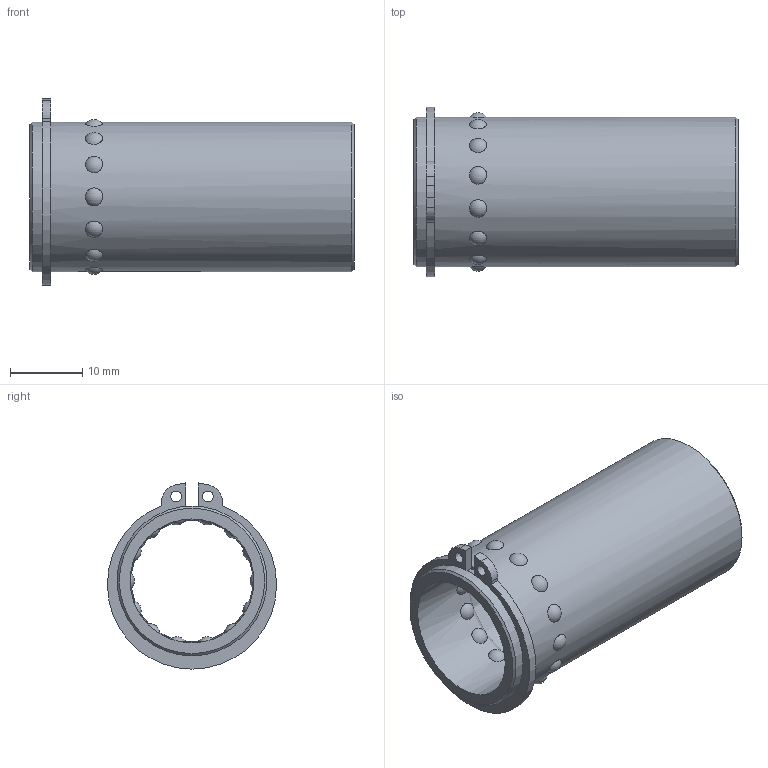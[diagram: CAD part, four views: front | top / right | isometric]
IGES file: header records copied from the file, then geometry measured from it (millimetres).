
Global section: file name: GSA1645.ipt; native system: Autodesk Inventor 2021; preprocessor: unknown; author: SM; date: 20211222.120634; units: millimetre
Bounding box: 45 x 23.5 x 25.86 mm (x, y, z)
Volume: 4986.5 mm3; surface area: 6091.4 mm2
Topology: 2 solids, 2 shells, 52 faces, 88 edges, 68 vertices
Faces by surface type: sphere 28, plane 12, cylinder 6, revolution 4, cone 2
Full cylindrical faces by diameter (mm): 19.8 x1, 20.8 x2
